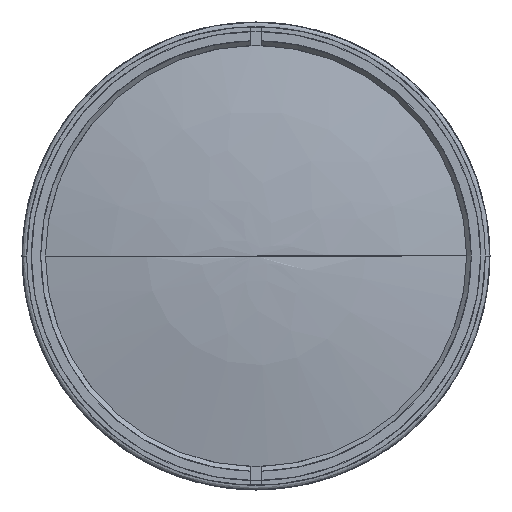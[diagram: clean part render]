
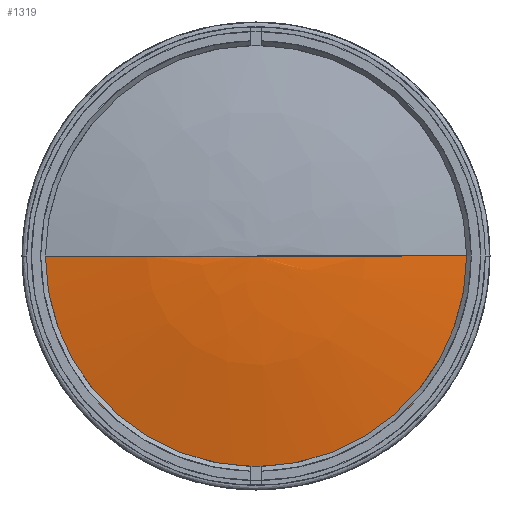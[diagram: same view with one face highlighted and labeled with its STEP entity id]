
A CAD part, left-side view. The second image highlights one B-rep face of the part: STEP entity #1319.
In plain terms, the highlighted face is a revolution surface.
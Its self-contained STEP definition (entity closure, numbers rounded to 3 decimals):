
#1319 = ADVANCED_FACE('',(#1320),#1338,.T.);
#1320 = FACE_BOUND('',#1321,.T.);
#1321 = EDGE_LOOP('',(#1322,#1352,#1371,#1390));
#1322 = ORIENTED_EDGE('',*,*,#1323,.F.);
#1323 = EDGE_CURVE('',#1324,#1326,#1328,.T.);
#1324 = VERTEX_POINT('',#1325);
#1325 = CARTESIAN_POINT('',(-187.385,0.,
    0.));
#1326 = VERTEX_POINT('',#1327);
#1327 = CARTESIAN_POINT('',(-182.505,46.5,
    0.));
#1328 = SURFACE_CURVE('',#1329,(#1337),.PCURVE_S1.);
#1329 = ( BOUNDED_CURVE() B_SPLINE_CURVE(6,(#1330,#1331,#1332,#1333,
#1334,#1335,#1336),.UNSPECIFIED.,.F.,.F.) B_SPLINE_CURVE_WITH_KNOTS((7,7
),(0.,1.),.PIECEWISE_BEZIER_KNOTS.) CURVE() 
GEOMETRIC_REPRESENTATION_ITEM() RATIONAL_B_SPLINE_CURVE((1.001,
    1.,1.,1.,1.,
1.,1.001)) REPRESENTATION_ITEM('') );
#1330 = CARTESIAN_POINT('',(-187.385,0.,
    0.));
#1331 = CARTESIAN_POINT('',(-187.385,7.81,
    0.));
#1332 = CARTESIAN_POINT('',(-187.058,15.616,
    0.));
#1333 = CARTESIAN_POINT('',(-186.405,23.403,
    0.));
#1334 = CARTESIAN_POINT('',(-185.428,31.157,
    0.));
#1335 = CARTESIAN_POINT('',(-184.127,38.861,
    0.));
#1336 = CARTESIAN_POINT('',(-182.505,46.5,
    0.));
#1337 = PCURVE('',#1338,#1347);
#1338 = SURFACE_OF_REVOLUTION('',#1339,#1344);
#1339 = CIRCLE('',#1340,224.);
#1340 = AXIS2_PLACEMENT_3D('',#1341,#1342,#1343);
#1341 = CARTESIAN_POINT('',(36.615,0.,0.));
#1342 = DIRECTION('',(-0.,0.,1.));
#1343 = DIRECTION('',(1.,0.,0.));
#1344 = AXIS1_PLACEMENT('',#1345,#1346);
#1345 = CARTESIAN_POINT('',(36.615,0.,0.));
#1346 = DIRECTION('',(1.,0.,0.));
#1347 = DEFINITIONAL_REPRESENTATION('',(#1348),#1351);
#1348 = B_SPLINE_CURVE_WITH_KNOTS('',1,(#1349,#1350),.UNSPECIFIED.,.F.,
  .F.,(2,2),(0.,1.),.PIECEWISE_BEZIER_KNOTS.);
#1349 = CARTESIAN_POINT('',(6.283,3.142));
#1350 = CARTESIAN_POINT('',(6.283,2.932));
#1351 = ( GEOMETRIC_REPRESENTATION_CONTEXT(2) 
PARAMETRIC_REPRESENTATION_CONTEXT() REPRESENTATION_CONTEXT('',''
  ) );
#1352 = ORIENTED_EDGE('',*,*,#1353,.F.);
#1353 = EDGE_CURVE('',#1354,#1324,#1356,.T.);
#1354 = VERTEX_POINT('',#1355);
#1355 = CARTESIAN_POINT('',(-187.385,0.,
    0.));
#1356 = SURFACE_CURVE('',#1357,(#1365),.PCURVE_S1.);
#1357 = ( BOUNDED_CURVE() B_SPLINE_CURVE(6,(#1358,#1359,#1360,#1361,
#1362,#1363,#1364),.UNSPECIFIED.,.F.,.F.) B_SPLINE_CURVE_WITH_KNOTS((7,7
),(0.,1.),.PIECEWISE_BEZIER_KNOTS.) CURVE() 
GEOMETRIC_REPRESENTATION_ITEM() RATIONAL_B_SPLINE_CURVE((1.133,
    1.036,0.992,0.976,0.992,
1.036,1.133)) REPRESENTATION_ITEM('') );
#1358 = CARTESIAN_POINT('',(-187.385,0.,
    0.));
#1359 = CARTESIAN_POINT('',(-187.385,0.,
    0.));
#1360 = CARTESIAN_POINT('',(-187.385,0.,
    0.));
#1361 = CARTESIAN_POINT('',(-187.385,0.,
    0.));
#1362 = CARTESIAN_POINT('',(-187.385,0.,
    0.));
#1363 = CARTESIAN_POINT('',(-187.385,0.,
    0.));
#1364 = CARTESIAN_POINT('',(-187.385,0.,
    0.));
#1365 = PCURVE('',#1338,#1366);
#1366 = DEFINITIONAL_REPRESENTATION('',(#1367),#1370);
#1367 = B_SPLINE_CURVE_WITH_KNOTS('',1,(#1368,#1369),.UNSPECIFIED.,.F.,
  .F.,(2,2),(0.,1.),.PIECEWISE_BEZIER_KNOTS.);
#1368 = CARTESIAN_POINT('',(3.142,3.142));
#1369 = CARTESIAN_POINT('',(6.283,3.142));
#1370 = ( GEOMETRIC_REPRESENTATION_CONTEXT(2) 
PARAMETRIC_REPRESENTATION_CONTEXT() REPRESENTATION_CONTEXT('',''
  ) );
#1371 = ORIENTED_EDGE('',*,*,#1372,.F.);
#1372 = EDGE_CURVE('',#1373,#1354,#1375,.T.);
#1373 = VERTEX_POINT('',#1374);
#1374 = CARTESIAN_POINT('',(-182.505,-46.5,
    0.));
#1375 = SURFACE_CURVE('',#1376,(#1384),.PCURVE_S1.);
#1376 = ( BOUNDED_CURVE() B_SPLINE_CURVE(6,(#1377,#1378,#1379,#1380,
#1381,#1382,#1383),.UNSPECIFIED.,.F.,.F.) B_SPLINE_CURVE_WITH_KNOTS((7,7
),(0.,1.),.PIECEWISE_BEZIER_KNOTS.) CURVE() 
GEOMETRIC_REPRESENTATION_ITEM() RATIONAL_B_SPLINE_CURVE((1.001,
    1.,1.,1.,1.,
1.,1.001)) REPRESENTATION_ITEM('') );
#1377 = CARTESIAN_POINT('',(-182.505,-46.5,
    0.));
#1378 = CARTESIAN_POINT('',(-184.127,-38.861,
    0.));
#1379 = CARTESIAN_POINT('',(-185.428,-31.157,
    0.));
#1380 = CARTESIAN_POINT('',(-186.405,-23.403,
    0.));
#1381 = CARTESIAN_POINT('',(-187.058,-15.616,
    0.));
#1382 = CARTESIAN_POINT('',(-187.385,-7.81,
    0.));
#1383 = CARTESIAN_POINT('',(-187.385,0.,
    0.));
#1384 = PCURVE('',#1338,#1385);
#1385 = DEFINITIONAL_REPRESENTATION('',(#1386),#1389);
#1386 = B_SPLINE_CURVE_WITH_KNOTS('',1,(#1387,#1388),.UNSPECIFIED.,.F.,
  .F.,(2,2),(0.,1.),.PIECEWISE_BEZIER_KNOTS.);
#1387 = CARTESIAN_POINT('',(3.142,2.932));
#1388 = CARTESIAN_POINT('',(3.142,3.142));
#1389 = ( GEOMETRIC_REPRESENTATION_CONTEXT(2) 
PARAMETRIC_REPRESENTATION_CONTEXT() REPRESENTATION_CONTEXT('',''
  ) );
#1390 = ORIENTED_EDGE('',*,*,#1391,.F.);
#1391 = EDGE_CURVE('',#1326,#1373,#1392,.T.);
#1392 = SURFACE_CURVE('',#1393,(#1404),.PCURVE_S1.);
#1393 = B_SPLINE_CURVE_WITH_KNOTS('',9,(#1394,#1395,#1396,#1397,#1398,
    #1399,#1400,#1401,#1402,#1403),.UNSPECIFIED.,.F.,.F.,(10,10),(0.,1.)
  ,.PIECEWISE_BEZIER_KNOTS.);
#1394 = CARTESIAN_POINT('',(-182.505,46.5,
    0.));
#1395 = CARTESIAN_POINT('',(-182.505,46.5,
    -16.232));
#1396 = CARTESIAN_POINT('',(-182.505,40.126,
    -32.463));
#1397 = CARTESIAN_POINT('',(-182.505,27.378,
    -45.833));
#1398 = CARTESIAN_POINT('',(-182.505,9.754,
    -53.486));
#1399 = CARTESIAN_POINT('',(-182.505,-9.754,
    -53.486));
#1400 = CARTESIAN_POINT('',(-182.505,-27.378,
    -45.833));
#1401 = CARTESIAN_POINT('',(-182.505,-40.126,
    -32.463));
#1402 = CARTESIAN_POINT('',(-182.505,-46.5,
    -16.232));
#1403 = CARTESIAN_POINT('',(-182.505,-46.5,
    0.));
#1404 = PCURVE('',#1338,#1405);
#1405 = DEFINITIONAL_REPRESENTATION('',(#1406),#1409);
#1406 = B_SPLINE_CURVE_WITH_KNOTS('',1,(#1407,#1408),.UNSPECIFIED.,.F.,
  .F.,(2,2),(0.,1.),.PIECEWISE_BEZIER_KNOTS.);
#1407 = CARTESIAN_POINT('',(6.283,2.932));
#1408 = CARTESIAN_POINT('',(3.142,2.932));
#1409 = ( GEOMETRIC_REPRESENTATION_CONTEXT(2) 
PARAMETRIC_REPRESENTATION_CONTEXT() REPRESENTATION_CONTEXT('',''
  ) );
